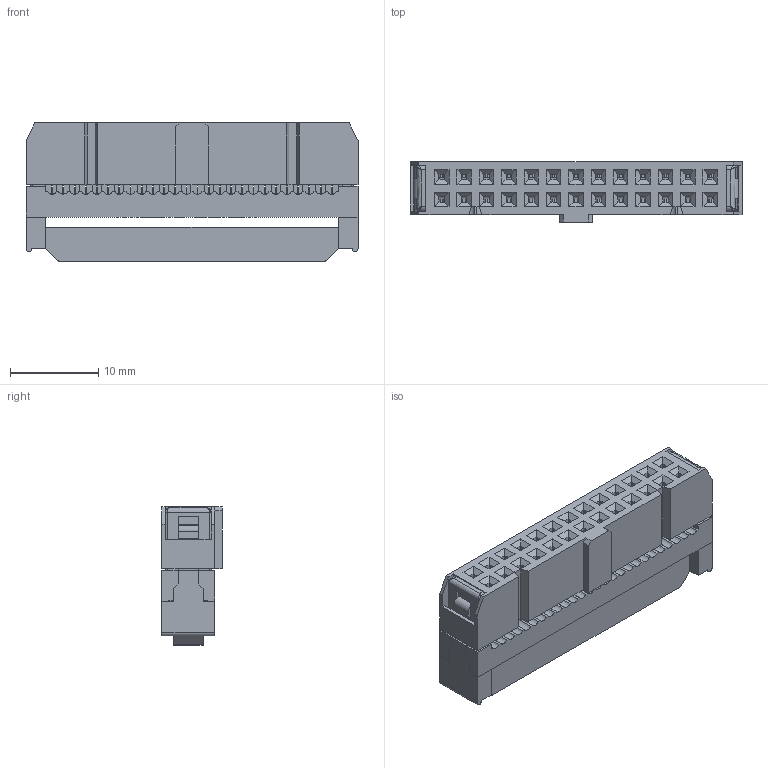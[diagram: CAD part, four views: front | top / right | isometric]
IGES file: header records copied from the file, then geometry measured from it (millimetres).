
Global section: file name: Filename.iges; native system: Open CASCADE 7.3; preprocessor: Open CASCADE IGES processor 7.3; date: 20201209.080523; units: millimetre
Bounding box: 37.7 x 6.86 x 15.7 mm (x, y, z)
Surface area: 4790.6 mm2 (no closed solid volume)
Topology: 0 solids, 0 shells, 1581 faces, 8756 edges, 8748 vertices
Faces by surface type: plane 1201, revolution 362, extrusion 14, bspline 4
